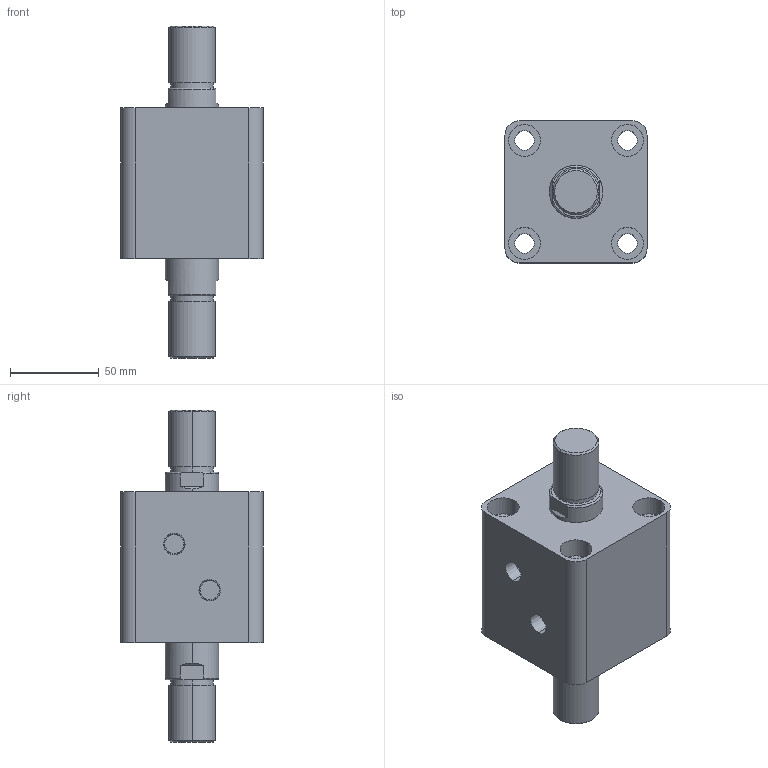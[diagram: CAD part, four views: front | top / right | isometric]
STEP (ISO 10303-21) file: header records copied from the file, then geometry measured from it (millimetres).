
FILE_DESCRIPTION (( 'STEP AP203' ), '1' );
FILE_NAME ('HTB-SW50-10W.STEP', '2019-10-07T09:17:08', ( '微软用户' ), ( '微软中国' ), 'SwSTEP 2.0', 'SolidWorks 2012', '' );
FILE_SCHEMA (( 'CONFIG_CONTROL_DESIGN' ));
Length unit declared in the file: millimetre
Products named in the file (3): HTB-SW50-10W; HTB-SW50-10W活塞杆; HTB-SW50-10掛极
Assembly tree (2 placements, depth 2):
  HTB-SW50-10W
    HTB-SW50-10掛极
    HTB-SW50-10W活塞杆
Bounding box: 80 x 80 x 187 mm (x, y, z)
Volume: 537113.2 mm3; surface area: 85448.2 mm2
Topology: 2 solids, 2 shells, 108 faces, 240 edges, 156 vertices
Faces by surface type: cylinder 52, plane 36, torus 12, cone 8
Entity records: 3449 total; most frequent: CARTESIAN_POINT 629, DIRECTION 586, ORIENTED_EDGE 480, AXIS2_PLACEMENT_3D 249, EDGE_CURVE 240, VERTEX_POINT 156, EDGE_LOOP 138, CIRCLE 136
